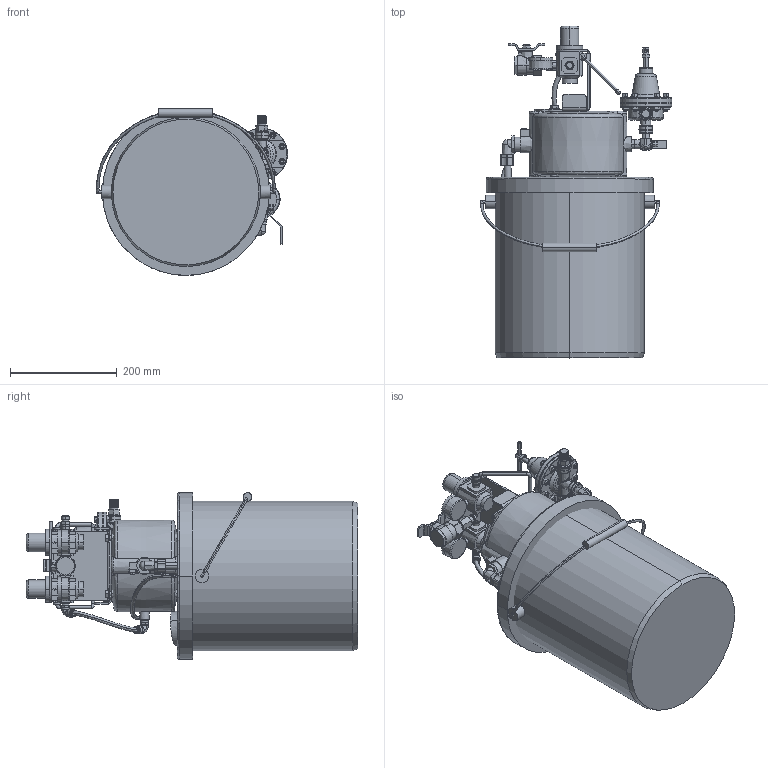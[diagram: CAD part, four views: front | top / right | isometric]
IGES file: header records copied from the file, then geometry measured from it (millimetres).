
Start section:  PTC IGES file: 233466-en-s.igs
Global section: file name: 233466-en-s.igs; native system: Creo Parametric by PTC Inc.; preprocessor: 2019030; author: qusrh3; organization: Unknown; date: 20191231.155631; units: inch
Bounding box: 358.01 x 621.54 x 312.62 mm (x, y, z)
Surface area: 983104.9 mm2 (no closed solid volume)
Topology: 0 solids, 0 shells, 1374 faces, 6304 edges, 6295 vertices
Faces by surface type: revolution 747, bspline 627
